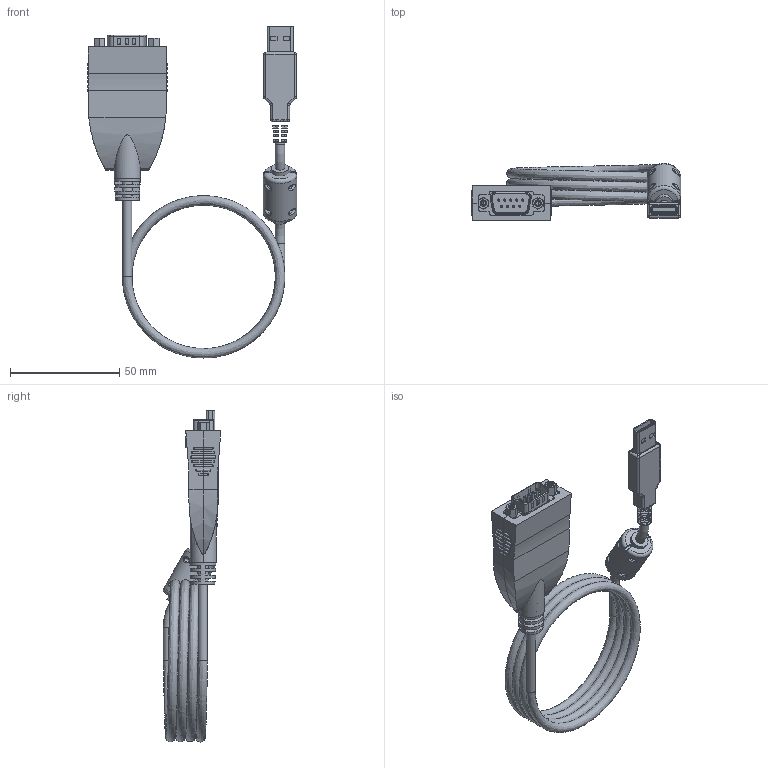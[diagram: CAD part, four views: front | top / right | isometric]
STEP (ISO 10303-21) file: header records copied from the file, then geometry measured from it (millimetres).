
FILE_DESCRIPTION(/* description */ (''),/* implementation_level */ '2;1');
FILE_NAME(/* name */ 'C:/Users/Leo/Desktop/AA CoolGear CADs/GM-FTDI2-A36/GM-FTDI2-A36 Model3D LPV1.step',/* time_stamp */ '2021-07-12T16:23:06-04:00',/* author */ (''),/* organization */ (''),/* preprocessor_version */ 'ST-DEVELOPER v18.1',/* originating_system */ 'Autodesk Translation Framework v10.9.0.1377',/* authorisation */ '');
FILE_SCHEMA (('AUTOMOTIVE_DESIGN { 1 0 10303 214 3 1 1 }'));
Length unit declared in the file: millimetre
Products named in the file (1): FusionComponent
Bounding box: 96.05 x 26.35 x 152.04 mm (x, y, z)
Volume: 32740.7 mm3; surface area: 35926.2 mm2
Topology: 11 solids, 18 shells, 2655 faces, 7473 edges, 4835 vertices
Faces by surface type: bspline 1289, cylinder 627, plane 622, torus 50, cone 34, sphere 33
Full cylindrical faces by diameter (mm): 0.9 x9, 1 x18, 1.5 x19, 2.02 x10, 2.845 x12, 3 x2, 4.3 x8, 4.4 x2, 8 x2, 10 x2, 10.4 x2, 15.4 x1
Entity records: 98590 total; most frequent: CARTESIAN_POINT 32894, ORIENTED_EDGE 14792, DIRECTION 13420, EDGE_CURVE 7396, AXIS2_PLACEMENT_3D 5109, VERTEX_POINT 4830, LINE 3202, VECTOR 3202
